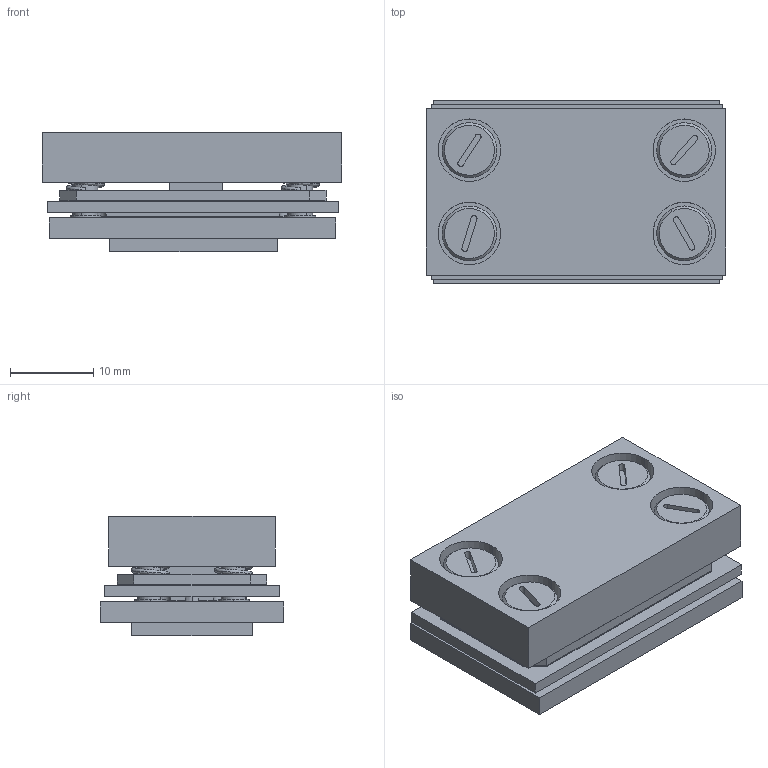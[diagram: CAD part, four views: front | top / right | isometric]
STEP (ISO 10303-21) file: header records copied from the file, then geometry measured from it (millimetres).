
FILE_DESCRIPTION (( 'STEP AP214' ), '1' );
FILE_NAME ('2518818.STEP', '2023-05-18T15:24:54', ( '' ), ( '' ), 'SwSTEP 2.0', 'SolidWorks 2021', '' );
FILE_SCHEMA (( 'AUTOMOTIVE_DESIGN' ));
Length unit declared in the file: millimetre
Products named in the file (22): s322-DMD-Assy-wPads; 2518817; SymPad-s322; LEE SPRING LCM060B 02M_aSSY-iSO; Elec-Pad-s322-PCB-DMD; 2518811; 2518816-Compressed_aSSY-iSO; 2512939-Comp; 2518814; 2518813; 2518818; s322-PCB-Pad-Pattern; Test-Elec-Pad-s322; 2518823; 2518812-FR4; Ceramic-s322; Elec-Pad-s322-DMD; s322-Pad-Pattern; Window-s322; LEE SPRING LC020CD 02M_aSSY-iSO; 2518819; 2518812
Assembly tree (338 placements, depth 4):
  2518818
    2518819
    s322-DMD-Assy-wPads
      Ceramic-s322
      Window-s322
      s322-Pad-Pattern
        Elec-Pad-s322-DMD  x151
        Test-Elec-Pad-s322  x8
      SymPad-s322
    2518817
    2518812
      2518812-FR4
      s322-PCB-Pad-Pattern
        Elec-Pad-s322-PCB-DMD  x151
    2518813
    2518811
    2518814  x4
    2518816-Compressed_aSSY-iSO
    2518823
    LEE SPRING LCM060B 02M_aSSY-iSO  x4
    LEE SPRING LC020CD 02M_aSSY-iSO  x4
    2512939-Comp  x2
Bounding box: 36 x 22 x 14.32 mm (x, y, z)
Volume: 7687.4 mm3; surface area: 11197.9 mm2
Topology: 334 solids, 334 shells, 3302 faces, 6802 edges, 4506 vertices
Faces by surface type: plane 2414, cylinder 812, torus 32, cone 28, bspline 16
Entity records: 43302 total; most frequent: CARTESIAN_POINT 8633, DIRECTION 7817, ORIENTED_EDGE 5798, AXIS2_PLACEMENT_3D 3246, EDGE_CURVE 2899, VERTEX_POINT 1920, EDGE_LOOP 1727, CIRCLE 1566
